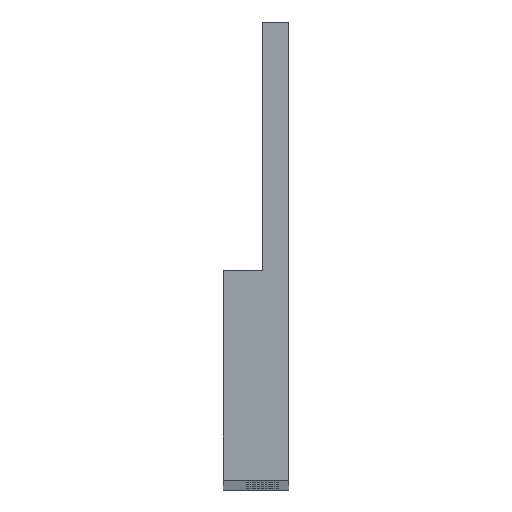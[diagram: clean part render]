
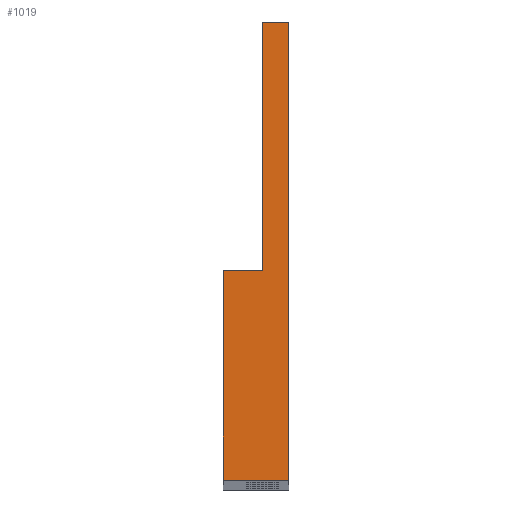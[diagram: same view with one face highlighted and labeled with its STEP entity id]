
A CAD part, top view. The second image highlights one B-rep face of the part: STEP entity #1019.
In plain terms, the highlighted planar face has unit normal (0, 0, 1).
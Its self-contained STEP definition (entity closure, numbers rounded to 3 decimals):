
#93=PLANE('',#1157);
#181=FACE_OUTER_BOUND('',#269,.T.);
#269=EDGE_LOOP('',(#936,#937,#938,#939,#940,#941));
#327=LINE('',#1742,#395);
#329=LINE('',#1746,#397);
#331=LINE('',#1750,#399);
#333=LINE('',#1754,#401);
#335=LINE('',#1758,#403);
#337=LINE('',#1761,#405);
#395=VECTOR('',#1451,10.);
#397=VECTOR('',#1455,10.);
#399=VECTOR('',#1459,10.);
#401=VECTOR('',#1463,10.);
#403=VECTOR('',#1467,10.);
#405=VECTOR('',#1471,10.);
#552=VERTEX_POINT('',#1739);
#553=VERTEX_POINT('',#1741);
#554=VERTEX_POINT('',#1745);
#555=VERTEX_POINT('',#1749);
#556=VERTEX_POINT('',#1753);
#557=VERTEX_POINT('',#1757);
#675=EDGE_CURVE('',#553,#552,#327,.T.);
#677=EDGE_CURVE('',#554,#553,#329,.T.);
#679=EDGE_CURVE('',#555,#554,#331,.T.);
#681=EDGE_CURVE('',#556,#555,#333,.T.);
#683=EDGE_CURVE('',#557,#556,#335,.T.);
#685=EDGE_CURVE('',#552,#557,#337,.T.);
#936=ORIENTED_EDGE('',*,*,#685,.T.);
#937=ORIENTED_EDGE('',*,*,#683,.T.);
#938=ORIENTED_EDGE('',*,*,#681,.T.);
#939=ORIENTED_EDGE('',*,*,#679,.T.);
#940=ORIENTED_EDGE('',*,*,#677,.T.);
#941=ORIENTED_EDGE('',*,*,#675,.T.);
#1019=ADVANCED_FACE('',(#181),#93,.T.);
#1157=AXIS2_PLACEMENT_3D('',#1762,#1472,#1473);
#1451=DIRECTION('',(0.,-1.,0.));
#1455=DIRECTION('',(-1.,0.,0.));
#1459=DIRECTION('',(0.,1.,0.));
#1463=DIRECTION('',(1.,0.,0.));
#1467=DIRECTION('',(0.,-1.,0.));
#1471=DIRECTION('',(-1.,0.,0.));
#1472=DIRECTION('center_axis',(0.,0.,1.));
#1473=DIRECTION('ref_axis',(1.,0.,0.));
#1739=CARTESIAN_POINT('',(-2.,-1.5,217.));
#1741=CARTESIAN_POINT('',(-2.,17.5,217.));
#1742=CARTESIAN_POINT('',(-2.,17.5,217.));
#1745=CARTESIAN_POINT('',(0.,17.5,217.));
#1746=CARTESIAN_POINT('',(0.,17.5,217.));
#1749=CARTESIAN_POINT('',(0.,-17.5,217.));
#1750=CARTESIAN_POINT('',(0.,-17.5,217.));
#1753=CARTESIAN_POINT('',(-5.,-17.5,217.));
#1754=CARTESIAN_POINT('',(-5.,-17.5,217.));
#1757=CARTESIAN_POINT('',(-5.,-1.5,217.));
#1758=CARTESIAN_POINT('',(-5.,-1.5,217.));
#1761=CARTESIAN_POINT('',(-2.,-1.5,217.));
#1762=CARTESIAN_POINT('Origin',(-2.5,0.,217.));
